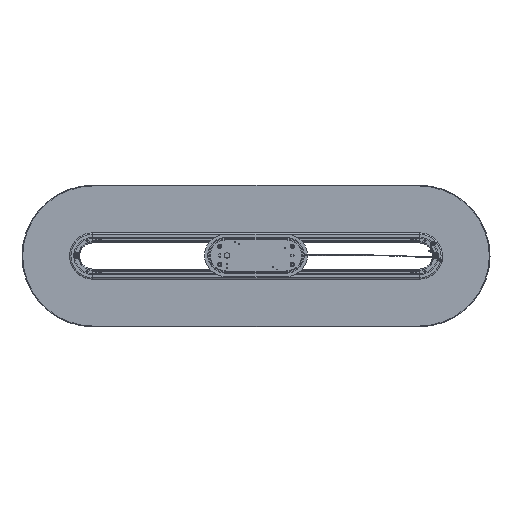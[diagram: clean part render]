
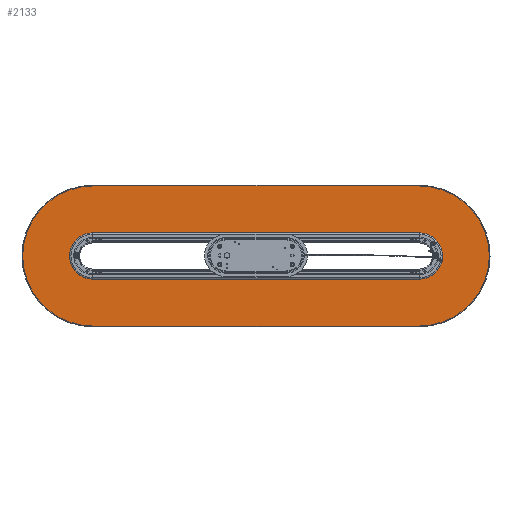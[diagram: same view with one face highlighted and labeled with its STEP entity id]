
A CAD part, top view. The second image highlights one B-rep face of the part: STEP entity #2133.
In plain terms, the highlighted planar face has unit normal (0, 0, 1) as drawn and (0, 0, -1) by its records, which use the part's own axes.
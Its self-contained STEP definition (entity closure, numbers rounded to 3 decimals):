
#2133 = ADVANCED_FACE( '', ( #4095, #4096 ), #4097, .T. );
#4095 = FACE_OUTER_BOUND( '', #7159, .T. );
#4096 = FACE_BOUND( '', #7160, .T. );
#4097 = PLANE( '', #7161 );
#7159 = EDGE_LOOP( '', ( #11201, #11202, #11203, #11204 ) );
#7160 = EDGE_LOOP( '', ( #11205, #11206, #11207, #11208 ) );
#7161 = AXIS2_PLACEMENT_3D( '', #11209, #11210, #11211 );
#11201 = ORIENTED_EDGE( '', *, *, #12102, .T. );
#11202 = ORIENTED_EDGE( '', *, *, #12925, .T. );
#11203 = ORIENTED_EDGE( '', *, *, #12544, .T. );
#11204 = ORIENTED_EDGE( '', *, *, #12588, .T. );
#11205 = ORIENTED_EDGE( '', *, *, #12976, .T. );
#11206 = ORIENTED_EDGE( '', *, *, #11855, .T. );
#11207 = ORIENTED_EDGE( '', *, *, #12535, .T. );
#11208 = ORIENTED_EDGE( '', *, *, #12527, .T. );
#11209 = CARTESIAN_POINT( '', ( -450., 0., 0. ) );
#11210 = DIRECTION( '', ( 0., 0., -1. ) );
#11211 = DIRECTION( '', ( -1., 0., 0. ) );
#11855 = EDGE_CURVE( '', #13734, #13739, #13741, .F. );
#12102 = EDGE_CURVE( '', #14119, #14124, #14126, .T. );
#12527 = EDGE_CURVE( '', #14730, #14735, #14737, .F. );
#12535 = EDGE_CURVE( '', #13739, #14730, #14746, .T. );
#12544 = EDGE_CURVE( '', #14759, #14757, #14760, .T. );
#12588 = EDGE_CURVE( '', #14757, #14119, #14821, .T. );
#12925 = EDGE_CURVE( '', #14124, #14759, #15232, .T. );
#12976 = EDGE_CURVE( '', #14735, #13734, #15284, .T. );
#13734 = VERTEX_POINT( '', #16438 );
#13739 = VERTEX_POINT( '', #16444 );
#13741 = CIRCLE( '', #16447, 51. );
#14119 = VERTEX_POINT( '', #17013 );
#14124 = VERTEX_POINT( '', #17019 );
#14126 = LINE( '', #17021, #17022 );
#14730 = VERTEX_POINT( '', #17939 );
#14735 = VERTEX_POINT( '', #17945 );
#14737 = CIRCLE( '', #17948, 51. );
#14746 = LINE( '', #17960, #17961 );
#14757 = VERTEX_POINT( '', #17973 );
#14759 = VERTEX_POINT( '', #17975 );
#14760 = LINE( '', #17976, #17977 );
#14821 = CIRCLE( '', #18094, 193. );
#15232 = CIRCLE( '', #18749, 193. );
#15284 = LINE( '', #18808, #18809 );
#16438 = CARTESIAN_POINT( '', ( -450., 51., 0. ) );
#16444 = CARTESIAN_POINT( '', ( -450., -51., 0. ) );
#16447 = AXIS2_PLACEMENT_3D( '', #19464, #19465, #19466 );
#17013 = CARTESIAN_POINT( '', ( -450., 193., 0. ) );
#17019 = CARTESIAN_POINT( '', ( 450., 193., 0. ) );
#17021 = CARTESIAN_POINT( '', ( -450., 193., 0. ) );
#17022 = VECTOR( '', #19785, 1000. );
#17939 = CARTESIAN_POINT( '', ( 450., -51., 0. ) );
#17945 = CARTESIAN_POINT( '', ( 450., 51., 0. ) );
#17948 = AXIS2_PLACEMENT_3D( '', #20325, #20326, #20327 );
#17960 = CARTESIAN_POINT( '', ( -450., -51., 0. ) );
#17961 = VECTOR( '', #20334, 1000. );
#17973 = CARTESIAN_POINT( '', ( -450., -193., 0. ) );
#17975 = CARTESIAN_POINT( '', ( 450., -193., 0. ) );
#17976 = CARTESIAN_POINT( '', ( -450., -193., 0. ) );
#17977 = VECTOR( '', #20351, 1000. );
#18094 = AXIS2_PLACEMENT_3D( '', #20410, #20411, #20412 );
#18749 = AXIS2_PLACEMENT_3D( '', #20754, #20755, #20756 );
#18808 = CARTESIAN_POINT( '', ( -450., 51., 0. ) );
#18809 = VECTOR( '', #20782, 1000. );
#19464 = CARTESIAN_POINT( '', ( -450., 0., 0. ) );
#19465 = DIRECTION( '', ( 0., 0., -1. ) );
#19466 = DIRECTION( '', ( -1., 0., 0. ) );
#19785 = DIRECTION( '', ( 1., 0., 0. ) );
#20325 = CARTESIAN_POINT( '', ( 450., 0., 0. ) );
#20326 = DIRECTION( '', ( 0., 0., -1. ) );
#20327 = DIRECTION( '', ( -1., 0., 0. ) );
#20334 = DIRECTION( '', ( 1., 0., 0. ) );
#20351 = DIRECTION( '', ( -1., 0., 0. ) );
#20410 = CARTESIAN_POINT( '', ( -450., 0., 0. ) );
#20411 = DIRECTION( '', ( 0., 0., -1. ) );
#20412 = DIRECTION( '', ( -1., 0., 0. ) );
#20754 = CARTESIAN_POINT( '', ( 450., 0., 0. ) );
#20755 = DIRECTION( '', ( 0., 0., -1. ) );
#20756 = DIRECTION( '', ( -1., 0., 0. ) );
#20782 = DIRECTION( '', ( -1., 0., 0. ) );
